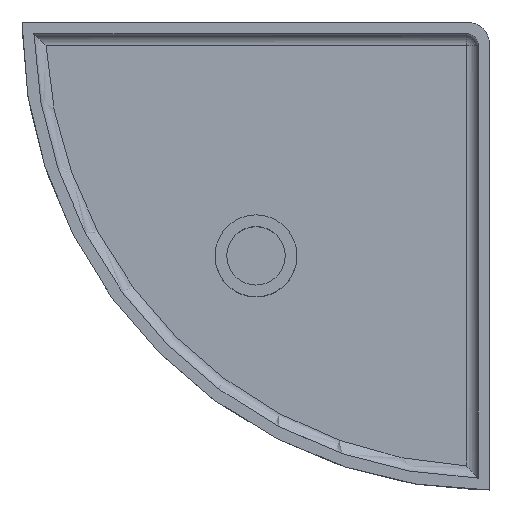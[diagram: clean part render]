
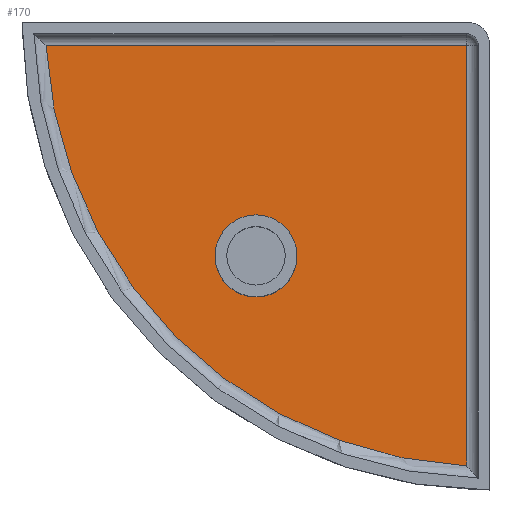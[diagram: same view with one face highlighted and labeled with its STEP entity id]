
A CAD part, top view. The second image highlights one B-rep face of the part: STEP entity #170.
In plain terms, the highlighted planar face has unit normal (0, 0, 1).
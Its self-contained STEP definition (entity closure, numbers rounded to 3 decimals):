
#20 = AXIS2_PLACEMENT_3D ( 'NONE', #588, #526, #508 ) ;
#57 = EDGE_CURVE ( 'NONE', #299, #361, #398, .T. ) ;
#66 = EDGE_CURVE ( 'NONE', #361, #192, #502, .T. ) ;
#86 = ORIENTED_EDGE ( 'NONE', *, *, #460, .F. ) ;
#117 = LINE ( 'NONE', #739, #566 ) ;
#125 = AXIS2_PLACEMENT_3D ( 'NONE', #147, #689, #615 ) ;
#134 = EDGE_LOOP ( 'NONE', ( #86, #401 ) ) ;
#140 = AXIS2_PLACEMENT_3D ( 'NONE', #492, #497, #499 ) ;
#147 = CARTESIAN_POINT ( 'NONE',  ( 0., 0., -1. ) ) ;
#152 = CARTESIAN_POINT ( 'NONE',  ( -3.5, 0., -1. ) ) ;
#154 = CIRCLE ( 'NONE', #315, 3.5 ) ;
#170 = ADVANCED_FACE ( 'NONE', ( #766, #707 ), #745, .T. ) ;
#192 = VERTEX_POINT ( 'NONE', #613 ) ;
#208 = CIRCLE ( 'NONE', #125, 3.5 ) ;
#223 = CARTESIAN_POINT ( 'NONE',  ( -17.947, 18., -1. ) ) ;
#242 = EDGE_CURVE ( 'NONE', #382, #343, #208, .T. ) ;
#276 = ORIENTED_EDGE ( 'NONE', *, *, #648, .F. ) ;
#299 = VERTEX_POINT ( 'NONE', #417 ) ;
#315 = AXIS2_PLACEMENT_3D ( 'NONE', #652, #570, #495 ) ;
#340 = ORIENTED_EDGE ( 'NONE', *, *, #57, .F. ) ;
#343 = VERTEX_POINT ( 'NONE', #152 ) ;
#361 = VERTEX_POINT ( 'NONE', #223 ) ;
#374 = CARTESIAN_POINT ( 'NONE',  ( 3.5, 0., -1. ) ) ;
#382 = VERTEX_POINT ( 'NONE', #374 ) ;
#398 = CIRCLE ( 'NONE', #140, 38. ) ;
#401 = ORIENTED_EDGE ( 'NONE', *, *, #242, .F. ) ;
#417 = CARTESIAN_POINT ( 'NONE',  ( 18., -17.947, -1. ) ) ;
#431 = EDGE_LOOP ( 'NONE', ( #276, #635, #340 ) ) ;
#435 = VECTOR ( 'NONE', #515, 1000. ) ;
#460 = EDGE_CURVE ( 'NONE', #343, #382, #154, .T. ) ;
#492 = CARTESIAN_POINT ( 'NONE',  ( 20., 20., -1. ) ) ;
#495 = DIRECTION ( 'NONE',  ( 1., 0., 0. ) ) ;
#497 = DIRECTION ( 'NONE',  ( 0., 0., -1. ) ) ;
#499 = DIRECTION ( 'NONE',  ( 1., 0., 0. ) ) ;
#502 = LINE ( 'NONE', #505, #435 ) ;
#505 = CARTESIAN_POINT ( 'NONE',  ( 20., 18., -1. ) ) ;
#508 = DIRECTION ( 'NONE',  ( 1., 0., 0. ) ) ;
#515 = DIRECTION ( 'NONE',  ( 1., 0., 0. ) ) ;
#526 = DIRECTION ( 'NONE',  ( 0., 0., 1. ) ) ;
#566 = VECTOR ( 'NONE', #661, 1000. ) ;
#570 = DIRECTION ( 'NONE',  ( 0., 0., 1. ) ) ;
#588 = CARTESIAN_POINT ( 'NONE',  ( 20., 20., -1. ) ) ;
#613 = CARTESIAN_POINT ( 'NONE',  ( 18., 18., -1. ) ) ;
#615 = DIRECTION ( 'NONE',  ( 1., 0., 0. ) ) ;
#635 = ORIENTED_EDGE ( 'NONE', *, *, #66, .F. ) ;
#648 = EDGE_CURVE ( 'NONE', #192, #299, #117, .T. ) ;
#652 = CARTESIAN_POINT ( 'NONE',  ( 0., 0., -1. ) ) ;
#661 = DIRECTION ( 'NONE',  ( 0., -1., 0. ) ) ;
#689 = DIRECTION ( 'NONE',  ( 0., 0., 1. ) ) ;
#707 = FACE_BOUND ( 'NONE', #134, .T. ) ;
#739 = CARTESIAN_POINT ( 'NONE',  ( 18., 20., -1. ) ) ;
#745 = PLANE ( 'NONE',  #20 ) ;
#766 = FACE_OUTER_BOUND ( 'NONE', #431, .T. ) ;
